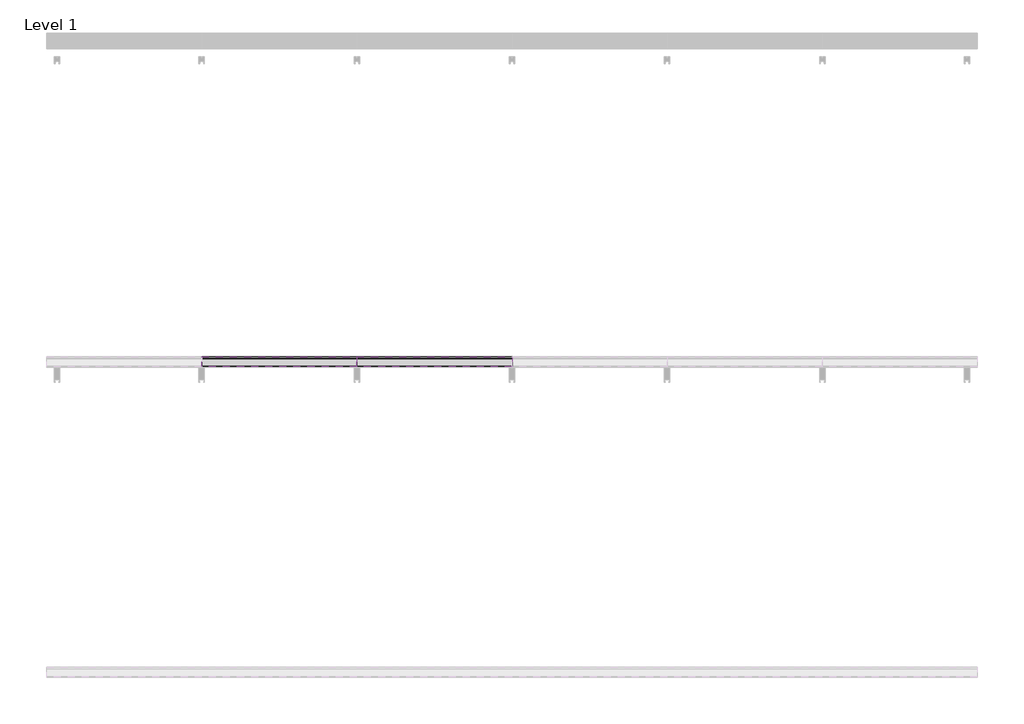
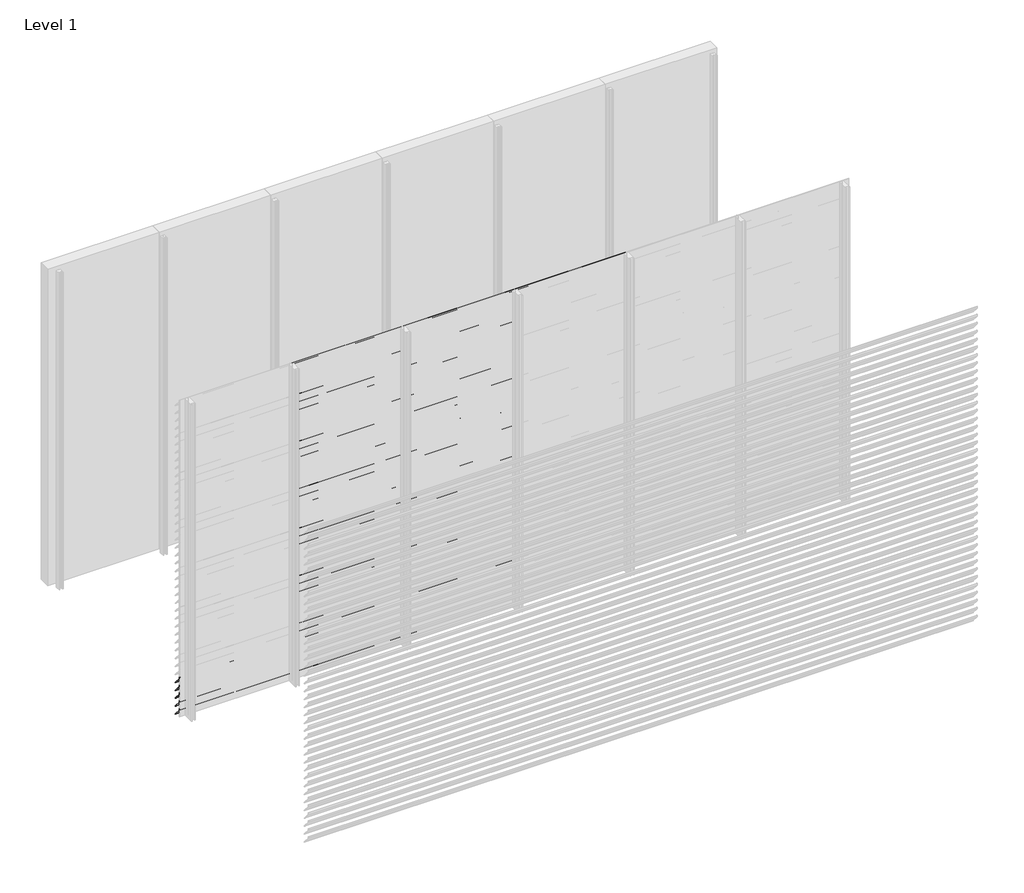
# One storey, part 24 of 35: 86 proxies.
"""IFC4 building model written with IfcOpenShell, lengths in millimetres."""

from ifc_helpers import new_model, si_unit, frame, origin, place, context, project, spatial, polyline, outline, extrude, element, save

model = new_model("IFC4")

# Units and contexts
model_context = context("Model", 3, world=origin())
ifc_project = project(units=[si_unit("LENGTHUNIT", "METRE", prefix="MILLI")], contexts=[model_context])

# Site, building, storey
site = spatial("IfcSite", under=ifc_project)
building = spatial("IfcBuilding", under=site)
storey = spatial("IfcBuildingStorey", under=building, Name="Level 1", Elevation=0.0)

# Proxies
placement = place(None, origin())
element("IfcBuildingElementProxy", 1, Name="Wall Sweeps", at=placement, inside=storey, context=model_context, shape_type="SweptSolid", body=[
    extrude(outline(polyline([(-17996.5, 375.0), (-17996.5, 360.5463701), (-17934.5, 288.9330051), (-17934.5, 285.4), (-17936.0, 285.4), (-17936.0, 288.3738975), (-17998.0, 359.9872626), (-17998.0, 375.0), (-17996.5, 375.0)])), frame((0.0, 0.0, 0.0), z_axis=(1.0, 0.0, 0.0), x_axis=(0.0, 1.0, 0.0)), (0.0, 0.0, 1.0), 1000.0),
])
element("IfcBuildingElementProxy", 2, Name="Wall Sweeps", at=placement, inside=storey, context=model_context, shape_type="SweptSolid", body=[
    extrude(outline(polyline([(-17996.5, 300.0), (-17996.5, 285.5463701), (-17934.5, 213.9330051), (-17934.5, 210.4), (-17936.0, 210.4), (-17936.0, 213.3738975), (-17998.0, 284.9872626), (-17998.0, 300.0), (-17996.5, 300.0)])), frame((0.0, 0.0, 0.0), z_axis=(1.0, 0.0, 0.0), x_axis=(0.0, 1.0, 0.0)), (0.0, 0.0, 1.0), 1000.0),
])
element("IfcBuildingElementProxy", 3, Name="Wall Sweeps", at=placement, inside=storey, context=model_context, shape_type="SweptSolid", body=[
    extrude(outline(polyline([(-17996.5, 225.0), (-17996.5, 210.5463701), (-17934.5, 138.9330051), (-17934.5, 135.4), (-17936.0, 135.4), (-17936.0, 138.3738975), (-17998.0, 209.9872626), (-17998.0, 225.0), (-17996.5, 225.0)])), frame((0.0, 0.0, 0.0), z_axis=(1.0, 0.0, 0.0), x_axis=(0.0, 1.0, 0.0)), (0.0, 0.0, 1.0), 1000.0),
])
element("IfcBuildingElementProxy", 4, Name="Wall Sweeps", at=placement, inside=storey, context=model_context, shape_type="SweptSolid", body=[
    extrude(outline(polyline([(-17996.5, 150.0), (-17996.5, 135.5463701), (-17934.5, 63.9330051), (-17934.5, 60.4), (-17936.0, 60.4), (-17936.0, 63.3738975), (-17998.0, 134.9872626), (-17998.0, 150.0), (-17996.5, 150.0)])), frame((0.0, 0.0, 0.0), z_axis=(1.0, 0.0, 0.0), x_axis=(0.0, 1.0, 0.0)), (0.0, 0.0, 1.0), 1000.0),
])
element("IfcBuildingElementProxy", 5, Name="Wall Sweeps", at=placement, inside=storey, context=model_context, shape_type="SweptSolid", body=[
    extrude(outline(polyline([(-17996.5, 75.0), (-17996.5, 60.5463701), (-17934.5, -11.0669949), (-17934.5, -14.6), (-17936.0, -14.6), (-17936.0, -11.6261025), (-17998.0, 59.9872626), (-17998.0, 75.0), (-17996.5, 75.0)])), frame((0.0, 0.0, 0.0), z_axis=(1.0, 0.0, 0.0), x_axis=(0.0, 1.0, 0.0)), (0.0, 0.0, 1.0), 1000.0),
])
element("IfcBuildingElementProxy", 6, Name="Wall Sweeps", at=placement, inside=storey, context=model_context, shape_type="SweptSolid", body=[
    extrude(outline(polyline([(-17996.5, 3000.0), (-17996.5, 2985.5463701), (-17934.5, 2913.9330051), (-17934.5, 2910.4), (-17936.0, 2910.4), (-17936.0, 2913.3738975), (-17998.0, 2984.9872626), (-17998.0, 3000.0), (-17996.5, 3000.0)])), frame((1000.0, 0.0, 0.0), z_axis=(1.0, 0.0, 0.0), x_axis=(0.0, 1.0, 0.0)), (0.0, 0.0, 1.0), 1000.0),
])
element("IfcBuildingElementProxy", 7, Name="Wall Sweeps", at=placement, inside=storey, context=model_context, shape_type="SweptSolid", body=[
    extrude(outline(polyline([(-17996.5, 2925.0), (-17996.5, 2910.5463701), (-17934.5, 2838.9330051), (-17934.5, 2835.4), (-17936.0, 2835.4), (-17936.0, 2838.3738975), (-17998.0, 2909.9872626), (-17998.0, 2925.0), (-17996.5, 2925.0)])), frame((1000.0, 0.0, 0.0), z_axis=(1.0, 0.0, 0.0), x_axis=(0.0, 1.0, 0.0)), (0.0, 0.0, 1.0), 1000.0),
])
element("IfcBuildingElementProxy", 8, Name="Wall Sweeps", at=placement, inside=storey, context=model_context, shape_type="SweptSolid", body=[
    extrude(outline(polyline([(-17996.5, 2850.0), (-17996.5, 2835.5463701), (-17934.5, 2763.9330051), (-17934.5, 2760.4), (-17936.0, 2760.4), (-17936.0, 2763.3738975), (-17998.0, 2834.9872626), (-17998.0, 2850.0), (-17996.5, 2850.0)])), frame((1000.0, 0.0, 0.0), z_axis=(1.0, 0.0, 0.0), x_axis=(0.0, 1.0, 0.0)), (0.0, 0.0, 1.0), 1000.0),
])
element("IfcBuildingElementProxy", 9, Name="Wall Sweeps", at=placement, inside=storey, context=model_context, shape_type="SweptSolid", body=[
    extrude(outline(polyline([(-17996.5, 2775.0), (-17996.5, 2760.5463701), (-17934.5, 2688.9330051), (-17934.5, 2685.4), (-17936.0, 2685.4), (-17936.0, 2688.3738975), (-17998.0, 2759.9872626), (-17998.0, 2775.0), (-17996.5, 2775.0)])), frame((1000.0, 0.0, 0.0), z_axis=(1.0, 0.0, 0.0), x_axis=(0.0, 1.0, 0.0)), (0.0, 0.0, 1.0), 1000.0),
])
element("IfcBuildingElementProxy", 10, Name="Wall Sweeps", at=placement, inside=storey, context=model_context, shape_type="SweptSolid", body=[
    extrude(outline(polyline([(-17996.5, 2700.0), (-17996.5, 2685.5463701), (-17934.5, 2613.9330051), (-17934.5, 2610.4), (-17936.0, 2610.4), (-17936.0, 2613.3738975), (-17998.0, 2684.9872626), (-17998.0, 2700.0), (-17996.5, 2700.0)])), frame((1000.0, 0.0, 0.0), z_axis=(1.0, 0.0, 0.0), x_axis=(0.0, 1.0, 0.0)), (0.0, 0.0, 1.0), 1000.0),
])
element("IfcBuildingElementProxy", 11, Name="Wall Sweeps", at=placement, inside=storey, context=model_context, shape_type="SweptSolid", body=[
    extrude(outline(polyline([(-17996.5, 2625.0), (-17996.5, 2610.5463701), (-17934.5, 2538.9330051), (-17934.5, 2535.4), (-17936.0, 2535.4), (-17936.0, 2538.3738975), (-17998.0, 2609.9872626), (-17998.0, 2625.0), (-17996.5, 2625.0)])), frame((1000.0, 0.0, 0.0), z_axis=(1.0, 0.0, 0.0), x_axis=(0.0, 1.0, 0.0)), (0.0, 0.0, 1.0), 1000.0),
])
element("IfcBuildingElementProxy", 12, Name="Wall Sweeps", at=placement, inside=storey, context=model_context, shape_type="SweptSolid", body=[
    extrude(outline(polyline([(-17996.5, 2550.0), (-17996.5, 2535.5463701), (-17934.5, 2463.9330051), (-17934.5, 2460.4), (-17936.0, 2460.4), (-17936.0, 2463.3738975), (-17998.0, 2534.9872626), (-17998.0, 2550.0), (-17996.5, 2550.0)])), frame((1000.0, 0.0, 0.0), z_axis=(1.0, 0.0, 0.0), x_axis=(0.0, 1.0, 0.0)), (0.0, 0.0, 1.0), 1000.0),
])
element("IfcBuildingElementProxy", 13, Name="Wall Sweeps", at=placement, inside=storey, context=model_context, shape_type="SweptSolid", body=[
    extrude(outline(polyline([(-17996.5, 2475.0), (-17996.5, 2460.5463701), (-17934.5, 2388.9330051), (-17934.5, 2385.4), (-17936.0, 2385.4), (-17936.0, 2388.3738975), (-17998.0, 2459.9872626), (-17998.0, 2475.0), (-17996.5, 2475.0)])), frame((1000.0, 0.0, 0.0), z_axis=(1.0, 0.0, 0.0), x_axis=(0.0, 1.0, 0.0)), (0.0, 0.0, 1.0), 1000.0),
])
element("IfcBuildingElementProxy", 14, Name="Wall Sweeps", at=placement, inside=storey, context=model_context, shape_type="SweptSolid", body=[
    extrude(outline(polyline([(-17996.5, 2400.0), (-17996.5, 2385.5463701), (-17934.5, 2313.9330051), (-17934.5, 2310.4), (-17936.0, 2310.4), (-17936.0, 2313.3738975), (-17998.0, 2384.9872626), (-17998.0, 2400.0), (-17996.5, 2400.0)])), frame((1000.0, 0.0, 0.0), z_axis=(1.0, 0.0, 0.0), x_axis=(0.0, 1.0, 0.0)), (0.0, 0.0, 1.0), 1000.0),
])
element("IfcBuildingElementProxy", 15, Name="Wall Sweeps", at=placement, inside=storey, context=model_context, shape_type="SweptSolid", body=[
    extrude(outline(polyline([(-17996.5, 2325.0), (-17996.5, 2310.5463701), (-17934.5, 2238.9330051), (-17934.5, 2235.4), (-17936.0, 2235.4), (-17936.0, 2238.3738975), (-17998.0, 2309.9872626), (-17998.0, 2325.0), (-17996.5, 2325.0)])), frame((1000.0, 0.0, 0.0), z_axis=(1.0, 0.0, 0.0), x_axis=(0.0, 1.0, 0.0)), (0.0, 0.0, 1.0), 1000.0),
])
element("IfcBuildingElementProxy", 16, Name="Wall Sweeps", at=placement, inside=storey, context=model_context, shape_type="SweptSolid", body=[
    extrude(outline(polyline([(-17996.5, 2250.0), (-17996.5, 2235.5463701), (-17934.5, 2163.9330051), (-17934.5, 2160.4), (-17936.0, 2160.4), (-17936.0, 2163.3738975), (-17998.0, 2234.9872626), (-17998.0, 2250.0), (-17996.5, 2250.0)])), frame((1000.0, 0.0, 0.0), z_axis=(1.0, 0.0, 0.0), x_axis=(0.0, 1.0, 0.0)), (0.0, 0.0, 1.0), 1000.0),
])
element("IfcBuildingElementProxy", 17, Name="Wall Sweeps", at=placement, inside=storey, context=model_context, shape_type="SweptSolid", body=[
    extrude(outline(polyline([(-17996.5, 2175.0), (-17996.5, 2160.5463701), (-17934.5, 2088.9330051), (-17934.5, 2085.4), (-17936.0, 2085.4), (-17936.0, 2088.3738975), (-17998.0, 2159.9872626), (-17998.0, 2175.0), (-17996.5, 2175.0)])), frame((1000.0, 0.0, 0.0), z_axis=(1.0, 0.0, 0.0), x_axis=(0.0, 1.0, 0.0)), (0.0, 0.0, 1.0), 1000.0),
])
element("IfcBuildingElementProxy", 18, Name="Wall Sweeps", at=placement, inside=storey, context=model_context, shape_type="SweptSolid", body=[
    extrude(outline(polyline([(-17996.5, 2100.0), (-17996.5, 2085.5463701), (-17934.5, 2013.9330051), (-17934.5, 2010.4), (-17936.0, 2010.4), (-17936.0, 2013.3738975), (-17998.0, 2084.9872626), (-17998.0, 2100.0), (-17996.5, 2100.0)])), frame((1000.0, 0.0, 0.0), z_axis=(1.0, 0.0, 0.0), x_axis=(0.0, 1.0, 0.0)), (0.0, 0.0, 1.0), 1000.0),
])
element("IfcBuildingElementProxy", 19, Name="Wall Sweeps", at=placement, inside=storey, context=model_context, shape_type="SweptSolid", body=[
    extrude(outline(polyline([(-17996.5, 2025.0), (-17996.5, 2010.5463701), (-17934.5, 1938.9330051), (-17934.5, 1935.4), (-17936.0, 1935.4), (-17936.0, 1938.3738975), (-17998.0, 2009.9872626), (-17998.0, 2025.0), (-17996.5, 2025.0)])), frame((1000.0, 0.0, 0.0), z_axis=(1.0, 0.0, 0.0), x_axis=(0.0, 1.0, 0.0)), (0.0, 0.0, 1.0), 1000.0),
])
element("IfcBuildingElementProxy", 20, Name="Wall Sweeps", at=placement, inside=storey, context=model_context, shape_type="SweptSolid", body=[
    extrude(outline(polyline([(-17996.5, 1950.0), (-17996.5, 1935.5463701), (-17934.5, 1863.9330051), (-17934.5, 1860.4), (-17936.0, 1860.4), (-17936.0, 1863.3738975), (-17998.0, 1934.9872626), (-17998.0, 1950.0), (-17996.5, 1950.0)])), frame((1000.0, 0.0, 0.0), z_axis=(1.0, 0.0, 0.0), x_axis=(0.0, 1.0, 0.0)), (0.0, 0.0, 1.0), 1000.0),
])
element("IfcBuildingElementProxy", 21, Name="Wall Sweeps", at=placement, inside=storey, context=model_context, shape_type="SweptSolid", body=[
    extrude(outline(polyline([(-17996.5, 1875.0), (-17996.5, 1860.5463701), (-17934.5, 1788.9330051), (-17934.5, 1785.4), (-17936.0, 1785.4), (-17936.0, 1788.3738975), (-17998.0, 1859.9872626), (-17998.0, 1875.0), (-17996.5, 1875.0)])), frame((1000.0, 0.0, 0.0), z_axis=(1.0, 0.0, 0.0), x_axis=(0.0, 1.0, 0.0)), (0.0, 0.0, 1.0), 1000.0),
])
element("IfcBuildingElementProxy", 22, Name="Wall Sweeps", at=placement, inside=storey, context=model_context, shape_type="SweptSolid", body=[
    extrude(outline(polyline([(-17996.5, 1800.0), (-17996.5, 1785.5463701), (-17934.5, 1713.9330051), (-17934.5, 1710.4), (-17936.0, 1710.4), (-17936.0, 1713.3738975), (-17998.0, 1784.9872626), (-17998.0, 1800.0), (-17996.5, 1800.0)])), frame((1000.0, 0.0, 0.0), z_axis=(1.0, 0.0, 0.0), x_axis=(0.0, 1.0, 0.0)), (0.0, 0.0, 1.0), 1000.0),
])
element("IfcBuildingElementProxy", 23, Name="Wall Sweeps", at=placement, inside=storey, context=model_context, shape_type="SweptSolid", body=[
    extrude(outline(polyline([(-17996.5, 1725.0), (-17996.5, 1710.5463701), (-17934.5, 1638.9330051), (-17934.5, 1635.4), (-17936.0, 1635.4), (-17936.0, 1638.3738975), (-17998.0, 1709.9872626), (-17998.0, 1725.0), (-17996.5, 1725.0)])), frame((1000.0, 0.0, 0.0), z_axis=(1.0, 0.0, 0.0), x_axis=(0.0, 1.0, 0.0)), (0.0, 0.0, 1.0), 1000.0),
])
element("IfcBuildingElementProxy", 24, Name="Wall Sweeps", at=placement, inside=storey, context=model_context, shape_type="SweptSolid", body=[
    extrude(outline(polyline([(-17996.5, 1650.0), (-17996.5, 1635.5463701), (-17934.5, 1563.9330051), (-17934.5, 1560.4), (-17936.0, 1560.4), (-17936.0, 1563.3738975), (-17998.0, 1634.9872626), (-17998.0, 1650.0), (-17996.5, 1650.0)])), frame((1000.0, 0.0, 0.0), z_axis=(1.0, 0.0, 0.0), x_axis=(0.0, 1.0, 0.0)), (0.0, 0.0, 1.0), 1000.0),
])
element("IfcBuildingElementProxy", 25, Name="Wall Sweeps", at=placement, inside=storey, context=model_context, shape_type="SweptSolid", body=[
    extrude(outline(polyline([(-17996.5, 1575.0), (-17996.5, 1560.5463701), (-17934.5, 1488.9330051), (-17934.5, 1485.4), (-17936.0, 1485.4), (-17936.0, 1488.3738975), (-17998.0, 1559.9872626), (-17998.0, 1575.0), (-17996.5, 1575.0)])), frame((1000.0, 0.0, 0.0), z_axis=(1.0, 0.0, 0.0), x_axis=(0.0, 1.0, 0.0)), (0.0, 0.0, 1.0), 1000.0),
])
element("IfcBuildingElementProxy", 26, Name="Wall Sweeps", at=placement, inside=storey, context=model_context, shape_type="SweptSolid", body=[
    extrude(outline(polyline([(-17996.5, 1500.0), (-17996.5, 1485.5463701), (-17934.5, 1413.9330051), (-17934.5, 1410.4), (-17936.0, 1410.4), (-17936.0, 1413.3738975), (-17998.0, 1484.9872626), (-17998.0, 1500.0), (-17996.5, 1500.0)])), frame((1000.0, 0.0, 0.0), z_axis=(1.0, 0.0, 0.0), x_axis=(0.0, 1.0, 0.0)), (0.0, 0.0, 1.0), 1000.0),
])
element("IfcBuildingElementProxy", 27, Name="Wall Sweeps", at=placement, inside=storey, context=model_context, shape_type="SweptSolid", body=[
    extrude(outline(polyline([(-17996.5, 1425.0), (-17996.5, 1410.5463701), (-17934.5, 1338.9330051), (-17934.5, 1335.4), (-17936.0, 1335.4), (-17936.0, 1338.3738975), (-17998.0, 1409.9872626), (-17998.0, 1425.0), (-17996.5, 1425.0)])), frame((1000.0, 0.0, 0.0), z_axis=(1.0, 0.0, 0.0), x_axis=(0.0, 1.0, 0.0)), (0.0, 0.0, 1.0), 1000.0),
])
element("IfcBuildingElementProxy", 28, Name="Wall Sweeps", at=placement, inside=storey, context=model_context, shape_type="SweptSolid", body=[
    extrude(outline(polyline([(-17996.5, 1350.0), (-17996.5, 1335.5463701), (-17934.5, 1263.9330051), (-17934.5, 1260.4), (-17936.0, 1260.4), (-17936.0, 1263.3738975), (-17998.0, 1334.9872626), (-17998.0, 1350.0), (-17996.5, 1350.0)])), frame((1000.0, 0.0, 0.0), z_axis=(1.0, 0.0, 0.0), x_axis=(0.0, 1.0, 0.0)), (0.0, 0.0, 1.0), 1000.0),
])
element("IfcBuildingElementProxy", 29, Name="Wall Sweeps", at=placement, inside=storey, context=model_context, shape_type="SweptSolid", body=[
    extrude(outline(polyline([(-17996.5, 1275.0), (-17996.5, 1260.5463701), (-17934.5, 1188.9330051), (-17934.5, 1185.4), (-17936.0, 1185.4), (-17936.0, 1188.3738975), (-17998.0, 1259.9872626), (-17998.0, 1275.0), (-17996.5, 1275.0)])), frame((1000.0, 0.0, 0.0), z_axis=(1.0, 0.0, 0.0), x_axis=(0.0, 1.0, 0.0)), (0.0, 0.0, 1.0), 1000.0),
])
element("IfcBuildingElementProxy", 30, Name="Wall Sweeps", at=placement, inside=storey, context=model_context, shape_type="SweptSolid", body=[
    extrude(outline(polyline([(-17996.5, 1200.0), (-17996.5, 1185.5463701), (-17934.5, 1113.9330051), (-17934.5, 1110.4), (-17936.0, 1110.4), (-17936.0, 1113.3738975), (-17998.0, 1184.9872626), (-17998.0, 1200.0), (-17996.5, 1200.0)])), frame((1000.0, 0.0, 0.0), z_axis=(1.0, 0.0, 0.0), x_axis=(0.0, 1.0, 0.0)), (0.0, 0.0, 1.0), 1000.0),
])
element("IfcBuildingElementProxy", 31, Name="Wall Sweeps", at=placement, inside=storey, context=model_context, shape_type="SweptSolid", body=[
    extrude(outline(polyline([(-17996.5, 1125.0), (-17996.5, 1110.5463701), (-17934.5, 1038.9330051), (-17934.5, 1035.4), (-17936.0, 1035.4), (-17936.0, 1038.3738975), (-17998.0, 1109.9872626), (-17998.0, 1125.0), (-17996.5, 1125.0)])), frame((1000.0, 0.0, 0.0), z_axis=(1.0, 0.0, 0.0), x_axis=(0.0, 1.0, 0.0)), (0.0, 0.0, 1.0), 1000.0),
])
element("IfcBuildingElementProxy", 32, Name="Wall Sweeps", at=placement, inside=storey, context=model_context, shape_type="SweptSolid", body=[
    extrude(outline(polyline([(-17996.5, 1050.0), (-17996.5, 1035.5463701), (-17934.5, 963.9330051), (-17934.5, 960.4), (-17936.0, 960.4), (-17936.0, 963.3738975), (-17998.0, 1034.9872626), (-17998.0, 1050.0), (-17996.5, 1050.0)])), frame((1000.0, 0.0, 0.0), z_axis=(1.0, 0.0, 0.0), x_axis=(0.0, 1.0, 0.0)), (0.0, 0.0, 1.0), 1000.0),
])
element("IfcBuildingElementProxy", 33, Name="Wall Sweeps", at=placement, inside=storey, context=model_context, shape_type="SweptSolid", body=[
    extrude(outline(polyline([(-17996.5, 975.0), (-17996.5, 960.5463701), (-17934.5, 888.9330051), (-17934.5, 885.4), (-17936.0, 885.4), (-17936.0, 888.3738975), (-17998.0, 959.9872626), (-17998.0, 975.0), (-17996.5, 975.0)])), frame((1000.0, 0.0, 0.0), z_axis=(1.0, 0.0, 0.0), x_axis=(0.0, 1.0, 0.0)), (0.0, 0.0, 1.0), 1000.0),
])
element("IfcBuildingElementProxy", 34, Name="Wall Sweeps", at=placement, inside=storey, context=model_context, shape_type="SweptSolid", body=[
    extrude(outline(polyline([(-17996.5, 900.0), (-17996.5, 885.5463701), (-17934.5, 813.9330051), (-17934.5, 810.4), (-17936.0, 810.4), (-17936.0, 813.3738975), (-17998.0, 884.9872626), (-17998.0, 900.0), (-17996.5, 900.0)])), frame((1000.0, 0.0, 0.0), z_axis=(1.0, 0.0, 0.0), x_axis=(0.0, 1.0, 0.0)), (0.0, 0.0, 1.0), 1000.0),
])
element("IfcBuildingElementProxy", 35, Name="Wall Sweeps", at=placement, inside=storey, context=model_context, shape_type="SweptSolid", body=[
    extrude(outline(polyline([(-17996.5, 825.0), (-17996.5, 810.5463701), (-17934.5, 738.9330051), (-17934.5, 735.4), (-17936.0, 735.4), (-17936.0, 738.3738975), (-17998.0, 809.9872626), (-17998.0, 825.0), (-17996.5, 825.0)])), frame((1000.0, 0.0, 0.0), z_axis=(1.0, 0.0, 0.0), x_axis=(0.0, 1.0, 0.0)), (0.0, 0.0, 1.0), 1000.0),
])
element("IfcBuildingElementProxy", 36, Name="Wall Sweeps", at=placement, inside=storey, context=model_context, shape_type="SweptSolid", body=[
    extrude(outline(polyline([(-17996.5, 750.0), (-17996.5, 735.5463701), (-17934.5, 663.9330051), (-17934.5, 660.4), (-17936.0, 660.4), (-17936.0, 663.3738975), (-17998.0, 734.9872626), (-17998.0, 750.0), (-17996.5, 750.0)])), frame((1000.0, 0.0, 0.0), z_axis=(1.0, 0.0, 0.0), x_axis=(0.0, 1.0, 0.0)), (0.0, 0.0, 1.0), 1000.0),
])
element("IfcBuildingElementProxy", 37, Name="Wall Sweeps", at=placement, inside=storey, context=model_context, shape_type="SweptSolid", body=[
    extrude(outline(polyline([(-17996.5, 675.0), (-17996.5, 660.5463701), (-17934.5, 588.9330051), (-17934.5, 585.4), (-17936.0, 585.4), (-17936.0, 588.3738975), (-17998.0, 659.9872626), (-17998.0, 675.0), (-17996.5, 675.0)])), frame((1000.0, 0.0, 0.0), z_axis=(1.0, 0.0, 0.0), x_axis=(0.0, 1.0, 0.0)), (0.0, 0.0, 1.0), 1000.0),
])
element("IfcBuildingElementProxy", 38, Name="Wall Sweeps", at=placement, inside=storey, context=model_context, shape_type="SweptSolid", body=[
    extrude(outline(polyline([(-17996.5, 600.0), (-17996.5, 585.5463701), (-17934.5, 513.9330051), (-17934.5, 510.4), (-17936.0, 510.4), (-17936.0, 513.3738975), (-17998.0, 584.9872626), (-17998.0, 600.0), (-17996.5, 600.0)])), frame((1000.0, 0.0, 0.0), z_axis=(1.0, 0.0, 0.0), x_axis=(0.0, 1.0, 0.0)), (0.0, 0.0, 1.0), 1000.0),
])
element("IfcBuildingElementProxy", 39, Name="Wall Sweeps", at=placement, inside=storey, context=model_context, shape_type="SweptSolid", body=[
    extrude(outline(polyline([(-17996.5, 525.0), (-17996.5, 510.5463701), (-17934.5, 438.9330051), (-17934.5, 435.4), (-17936.0, 435.4), (-17936.0, 438.3738975), (-17998.0, 509.9872626), (-17998.0, 525.0), (-17996.5, 525.0)])), frame((1000.0, 0.0, 0.0), z_axis=(1.0, 0.0, 0.0), x_axis=(0.0, 1.0, 0.0)), (0.0, 0.0, 1.0), 1000.0),
])
element("IfcBuildingElementProxy", 40, Name="Wall Sweeps", at=placement, inside=storey, context=model_context, shape_type="SweptSolid", body=[
    extrude(outline(polyline([(-17996.5, 450.0), (-17996.5, 435.5463701), (-17934.5, 363.9330051), (-17934.5, 360.4), (-17936.0, 360.4), (-17936.0, 363.3738975), (-17998.0, 434.9872626), (-17998.0, 450.0), (-17996.5, 450.0)])), frame((1000.0, 0.0, 0.0), z_axis=(1.0, 0.0, 0.0), x_axis=(0.0, 1.0, 0.0)), (0.0, 0.0, 1.0), 1000.0),
])
element("IfcBuildingElementProxy", 41, Name="Wall Sweeps", at=placement, inside=storey, context=model_context, shape_type="SweptSolid", body=[
    extrude(outline(polyline([(-17996.5, 375.0), (-17996.5, 360.5463701), (-17934.5, 288.9330051), (-17934.5, 285.4), (-17936.0, 285.4), (-17936.0, 288.3738975), (-17998.0, 359.9872626), (-17998.0, 375.0), (-17996.5, 375.0)])), frame((1000.0, 0.0, 0.0), z_axis=(1.0, 0.0, 0.0), x_axis=(0.0, 1.0, 0.0)), (0.0, 0.0, 1.0), 1000.0),
])
element("IfcBuildingElementProxy", 42, Name="Wall Sweeps", at=placement, inside=storey, context=model_context, shape_type="SweptSolid", body=[
    extrude(outline(polyline([(-17996.5, 300.0), (-17996.5, 285.5463701), (-17934.5, 213.9330051), (-17934.5, 210.4), (-17936.0, 210.4), (-17936.0, 213.3738975), (-17998.0, 284.9872626), (-17998.0, 300.0), (-17996.5, 300.0)])), frame((1000.0, 0.0, 0.0), z_axis=(1.0, 0.0, 0.0), x_axis=(0.0, 1.0, 0.0)), (0.0, 0.0, 1.0), 1000.0),
])
element("IfcBuildingElementProxy", 43, Name="Wall Sweeps", at=placement, inside=storey, context=model_context, shape_type="SweptSolid", body=[
    extrude(outline(polyline([(-17996.5, 225.0), (-17996.5, 210.5463701), (-17934.5, 138.9330051), (-17934.5, 135.4), (-17936.0, 135.4), (-17936.0, 138.3738975), (-17998.0, 209.9872626), (-17998.0, 225.0), (-17996.5, 225.0)])), frame((1000.0, 0.0, 0.0), z_axis=(1.0, 0.0, 0.0), x_axis=(0.0, 1.0, 0.0)), (0.0, 0.0, 1.0), 1000.0),
])
element("IfcBuildingElementProxy", 44, Name="Wall Sweeps", at=placement, inside=storey, context=model_context, shape_type="SweptSolid", body=[
    extrude(outline(polyline([(-17996.5, 150.0), (-17996.5, 135.5463701), (-17934.5, 63.9330051), (-17934.5, 60.4), (-17936.0, 60.4), (-17936.0, 63.3738975), (-17998.0, 134.9872626), (-17998.0, 150.0), (-17996.5, 150.0)])), frame((1000.0, 0.0, 0.0), z_axis=(1.0, 0.0, 0.0), x_axis=(0.0, 1.0, 0.0)), (0.0, 0.0, 1.0), 1000.0),
])
element("IfcBuildingElementProxy", 45, Name="Wall Sweeps", at=placement, inside=storey, context=model_context, shape_type="SweptSolid", body=[
    extrude(outline(polyline([(-17996.5, 75.0), (-17996.5, 60.5463701), (-17934.5, -11.0669949), (-17934.5, -14.6), (-17936.0, -14.6), (-17936.0, -11.6261025), (-17998.0, 59.9872626), (-17998.0, 75.0), (-17996.5, 75.0)])), frame((1000.0, 0.0, 0.0), z_axis=(1.0, 0.0, 0.0), x_axis=(0.0, 1.0, 0.0)), (0.0, 0.0, 1.0), 1000.0),
])
element("IfcBuildingElementProxy", 46, Name="Wall Sweeps", at=placement, inside=storey, context=model_context, shape_type="SweptSolid", body=[
    extrude(outline(polyline([(-17996.5, 3000.0), (-17996.5, 2985.5463701), (-17934.5, 2913.9330051), (-17934.5, 2910.4), (-17936.0, 2910.4), (-17936.0, 2913.3738975), (-17998.0, 2984.9872626), (-17998.0, 3000.0), (-17996.5, 3000.0)])), frame((2000.0, 0.0, 0.0), z_axis=(1.0, 0.0, 0.0), x_axis=(0.0, 1.0, 0.0)), (0.0, 0.0, 1.0), 1000.0),
])
element("IfcBuildingElementProxy", 47, Name="Wall Sweeps", at=placement, inside=storey, context=model_context, shape_type="SweptSolid", body=[
    extrude(outline(polyline([(-17996.5, 2925.0), (-17996.5, 2910.5463701), (-17934.5, 2838.9330051), (-17934.5, 2835.4), (-17936.0, 2835.4), (-17936.0, 2838.3738975), (-17998.0, 2909.9872626), (-17998.0, 2925.0), (-17996.5, 2925.0)])), frame((2000.0, 0.0, 0.0), z_axis=(1.0, 0.0, 0.0), x_axis=(0.0, 1.0, 0.0)), (0.0, 0.0, 1.0), 1000.0),
])
element("IfcBuildingElementProxy", 48, Name="Wall Sweeps", at=placement, inside=storey, context=model_context, shape_type="SweptSolid", body=[
    extrude(outline(polyline([(-17996.5, 2850.0), (-17996.5, 2835.5463701), (-17934.5, 2763.9330051), (-17934.5, 2760.4), (-17936.0, 2760.4), (-17936.0, 2763.3738975), (-17998.0, 2834.9872626), (-17998.0, 2850.0), (-17996.5, 2850.0)])), frame((2000.0, 0.0, 0.0), z_axis=(1.0, 0.0, 0.0), x_axis=(0.0, 1.0, 0.0)), (0.0, 0.0, 1.0), 1000.0),
])
element("IfcBuildingElementProxy", 49, Name="Wall Sweeps", at=placement, inside=storey, context=model_context, shape_type="SweptSolid", body=[
    extrude(outline(polyline([(-17996.5, 2775.0), (-17996.5, 2760.5463701), (-17934.5, 2688.9330051), (-17934.5, 2685.4), (-17936.0, 2685.4), (-17936.0, 2688.3738975), (-17998.0, 2759.9872626), (-17998.0, 2775.0), (-17996.5, 2775.0)])), frame((2000.0, 0.0, 0.0), z_axis=(1.0, 0.0, 0.0), x_axis=(0.0, 1.0, 0.0)), (0.0, 0.0, 1.0), 1000.0),
])
element("IfcBuildingElementProxy", 50, Name="Wall Sweeps", at=placement, inside=storey, context=model_context, shape_type="SweptSolid", body=[
    extrude(outline(polyline([(-17996.5, 2700.0), (-17996.5, 2685.5463701), (-17934.5, 2613.9330051), (-17934.5, 2610.4), (-17936.0, 2610.4), (-17936.0, 2613.3738975), (-17998.0, 2684.9872626), (-17998.0, 2700.0), (-17996.5, 2700.0)])), frame((2000.0, 0.0, 0.0), z_axis=(1.0, 0.0, 0.0), x_axis=(0.0, 1.0, 0.0)), (0.0, 0.0, 1.0), 1000.0),
])
element("IfcBuildingElementProxy", 51, Name="Wall Sweeps", at=placement, inside=storey, context=model_context, shape_type="SweptSolid", body=[
    extrude(outline(polyline([(-17996.5, 2625.0), (-17996.5, 2610.5463701), (-17934.5, 2538.9330051), (-17934.5, 2535.4), (-17936.0, 2535.4), (-17936.0, 2538.3738975), (-17998.0, 2609.9872626), (-17998.0, 2625.0), (-17996.5, 2625.0)])), frame((2000.0, 0.0, 0.0), z_axis=(1.0, 0.0, 0.0), x_axis=(0.0, 1.0, 0.0)), (0.0, 0.0, 1.0), 1000.0),
])
element("IfcBuildingElementProxy", 52, Name="Wall Sweeps", at=placement, inside=storey, context=model_context, shape_type="SweptSolid", body=[
    extrude(outline(polyline([(-17996.5, 2550.0), (-17996.5, 2535.5463701), (-17934.5, 2463.9330051), (-17934.5, 2460.4), (-17936.0, 2460.4), (-17936.0, 2463.3738975), (-17998.0, 2534.9872626), (-17998.0, 2550.0), (-17996.5, 2550.0)])), frame((2000.0, 0.0, 0.0), z_axis=(1.0, 0.0, 0.0), x_axis=(0.0, 1.0, 0.0)), (0.0, 0.0, 1.0), 1000.0),
])
element("IfcBuildingElementProxy", 53, Name="Wall Sweeps", at=placement, inside=storey, context=model_context, shape_type="SweptSolid", body=[
    extrude(outline(polyline([(-17996.5, 2475.0), (-17996.5, 2460.5463701), (-17934.5, 2388.9330051), (-17934.5, 2385.4), (-17936.0, 2385.4), (-17936.0, 2388.3738975), (-17998.0, 2459.9872626), (-17998.0, 2475.0), (-17996.5, 2475.0)])), frame((2000.0, 0.0, 0.0), z_axis=(1.0, 0.0, 0.0), x_axis=(0.0, 1.0, 0.0)), (0.0, 0.0, 1.0), 1000.0),
])
element("IfcBuildingElementProxy", 54, Name="Wall Sweeps", at=placement, inside=storey, context=model_context, shape_type="SweptSolid", body=[
    extrude(outline(polyline([(-17996.5, 2400.0), (-17996.5, 2385.5463701), (-17934.5, 2313.9330051), (-17934.5, 2310.4), (-17936.0, 2310.4), (-17936.0, 2313.3738975), (-17998.0, 2384.9872626), (-17998.0, 2400.0), (-17996.5, 2400.0)])), frame((2000.0, 0.0, 0.0), z_axis=(1.0, 0.0, 0.0), x_axis=(0.0, 1.0, 0.0)), (0.0, 0.0, 1.0), 1000.0),
])
element("IfcBuildingElementProxy", 55, Name="Wall Sweeps", at=placement, inside=storey, context=model_context, shape_type="SweptSolid", body=[
    extrude(outline(polyline([(-17996.5, 2325.0), (-17996.5, 2310.5463701), (-17934.5, 2238.9330051), (-17934.5, 2235.4), (-17936.0, 2235.4), (-17936.0, 2238.3738975), (-17998.0, 2309.9872626), (-17998.0, 2325.0), (-17996.5, 2325.0)])), frame((2000.0, 0.0, 0.0), z_axis=(1.0, 0.0, 0.0), x_axis=(0.0, 1.0, 0.0)), (0.0, 0.0, 1.0), 1000.0),
])
element("IfcBuildingElementProxy", 56, Name="Wall Sweeps", at=placement, inside=storey, context=model_context, shape_type="SweptSolid", body=[
    extrude(outline(polyline([(-17996.5, 2250.0), (-17996.5, 2235.5463701), (-17934.5, 2163.9330051), (-17934.5, 2160.4), (-17936.0, 2160.4), (-17936.0, 2163.3738975), (-17998.0, 2234.9872626), (-17998.0, 2250.0), (-17996.5, 2250.0)])), frame((2000.0, 0.0, 0.0), z_axis=(1.0, 0.0, 0.0), x_axis=(0.0, 1.0, 0.0)), (0.0, 0.0, 1.0), 1000.0),
])
element("IfcBuildingElementProxy", 57, Name="Wall Sweeps", at=placement, inside=storey, context=model_context, shape_type="SweptSolid", body=[
    extrude(outline(polyline([(-17996.5, 2175.0), (-17996.5, 2160.5463701), (-17934.5, 2088.9330051), (-17934.5, 2085.4), (-17936.0, 2085.4), (-17936.0, 2088.3738975), (-17998.0, 2159.9872626), (-17998.0, 2175.0), (-17996.5, 2175.0)])), frame((2000.0, 0.0, 0.0), z_axis=(1.0, 0.0, 0.0), x_axis=(0.0, 1.0, 0.0)), (0.0, 0.0, 1.0), 1000.0),
])
element("IfcBuildingElementProxy", 58, Name="Wall Sweeps", at=placement, inside=storey, context=model_context, shape_type="SweptSolid", body=[
    extrude(outline(polyline([(-17996.5, 2100.0), (-17996.5, 2085.5463701), (-17934.5, 2013.9330051), (-17934.5, 2010.4), (-17936.0, 2010.4), (-17936.0, 2013.3738975), (-17998.0, 2084.9872626), (-17998.0, 2100.0), (-17996.5, 2100.0)])), frame((2000.0, 0.0, 0.0), z_axis=(1.0, 0.0, 0.0), x_axis=(0.0, 1.0, 0.0)), (0.0, 0.0, 1.0), 1000.0),
])
element("IfcBuildingElementProxy", 59, Name="Wall Sweeps", at=placement, inside=storey, context=model_context, shape_type="SweptSolid", body=[
    extrude(outline(polyline([(-17996.5, 2025.0), (-17996.5, 2010.5463701), (-17934.5, 1938.9330051), (-17934.5, 1935.4), (-17936.0, 1935.4), (-17936.0, 1938.3738975), (-17998.0, 2009.9872626), (-17998.0, 2025.0), (-17996.5, 2025.0)])), frame((2000.0, 0.0, 0.0), z_axis=(1.0, 0.0, 0.0), x_axis=(0.0, 1.0, 0.0)), (0.0, 0.0, 1.0), 1000.0),
])
element("IfcBuildingElementProxy", 60, Name="Wall Sweeps", at=placement, inside=storey, context=model_context, shape_type="SweptSolid", body=[
    extrude(outline(polyline([(-17996.5, 1950.0), (-17996.5, 1935.5463701), (-17934.5, 1863.9330051), (-17934.5, 1860.4), (-17936.0, 1860.4), (-17936.0, 1863.3738975), (-17998.0, 1934.9872626), (-17998.0, 1950.0), (-17996.5, 1950.0)])), frame((2000.0, 0.0, 0.0), z_axis=(1.0, 0.0, 0.0), x_axis=(0.0, 1.0, 0.0)), (0.0, 0.0, 1.0), 1000.0),
])
element("IfcBuildingElementProxy", 61, Name="Wall Sweeps", at=placement, inside=storey, context=model_context, shape_type="SweptSolid", body=[
    extrude(outline(polyline([(-17996.5, 1875.0), (-17996.5, 1860.5463701), (-17934.5, 1788.9330051), (-17934.5, 1785.4), (-17936.0, 1785.4), (-17936.0, 1788.3738975), (-17998.0, 1859.9872626), (-17998.0, 1875.0), (-17996.5, 1875.0)])), frame((2000.0, 0.0, 0.0), z_axis=(1.0, 0.0, 0.0), x_axis=(0.0, 1.0, 0.0)), (0.0, 0.0, 1.0), 1000.0),
])
element("IfcBuildingElementProxy", 62, Name="Wall Sweeps", at=placement, inside=storey, context=model_context, shape_type="SweptSolid", body=[
    extrude(outline(polyline([(-17996.5, 1800.0), (-17996.5, 1785.5463701), (-17934.5, 1713.9330051), (-17934.5, 1710.4), (-17936.0, 1710.4), (-17936.0, 1713.3738975), (-17998.0, 1784.9872626), (-17998.0, 1800.0), (-17996.5, 1800.0)])), frame((2000.0, 0.0, 0.0), z_axis=(1.0, 0.0, 0.0), x_axis=(0.0, 1.0, 0.0)), (0.0, 0.0, 1.0), 1000.0),
])
element("IfcBuildingElementProxy", 63, Name="Wall Sweeps", at=placement, inside=storey, context=model_context, shape_type="SweptSolid", body=[
    extrude(outline(polyline([(-17996.5, 1725.0), (-17996.5, 1710.5463701), (-17934.5, 1638.9330051), (-17934.5, 1635.4), (-17936.0, 1635.4), (-17936.0, 1638.3738975), (-17998.0, 1709.9872626), (-17998.0, 1725.0), (-17996.5, 1725.0)])), frame((2000.0, 0.0, 0.0), z_axis=(1.0, 0.0, 0.0), x_axis=(0.0, 1.0, 0.0)), (0.0, 0.0, 1.0), 1000.0),
])
element("IfcBuildingElementProxy", 64, Name="Wall Sweeps", at=placement, inside=storey, context=model_context, shape_type="SweptSolid", body=[
    extrude(outline(polyline([(-17996.5, 1650.0), (-17996.5, 1635.5463701), (-17934.5, 1563.9330051), (-17934.5, 1560.4), (-17936.0, 1560.4), (-17936.0, 1563.3738975), (-17998.0, 1634.9872626), (-17998.0, 1650.0), (-17996.5, 1650.0)])), frame((2000.0, 0.0, 0.0), z_axis=(1.0, 0.0, 0.0), x_axis=(0.0, 1.0, 0.0)), (0.0, 0.0, 1.0), 1000.0),
])
element("IfcBuildingElementProxy", 65, Name="Wall Sweeps", at=placement, inside=storey, context=model_context, shape_type="SweptSolid", body=[
    extrude(outline(polyline([(-17996.5, 1575.0), (-17996.5, 1560.5463701), (-17934.5, 1488.9330051), (-17934.5, 1485.4), (-17936.0, 1485.4), (-17936.0, 1488.3738975), (-17998.0, 1559.9872626), (-17998.0, 1575.0), (-17996.5, 1575.0)])), frame((2000.0, 0.0, 0.0), z_axis=(1.0, 0.0, 0.0), x_axis=(0.0, 1.0, 0.0)), (0.0, 0.0, 1.0), 1000.0),
])
element("IfcBuildingElementProxy", 66, Name="Wall Sweeps", at=placement, inside=storey, context=model_context, shape_type="SweptSolid", body=[
    extrude(outline(polyline([(-17996.5, 1500.0), (-17996.5, 1485.5463701), (-17934.5, 1413.9330051), (-17934.5, 1410.4), (-17936.0, 1410.4), (-17936.0, 1413.3738975), (-17998.0, 1484.9872626), (-17998.0, 1500.0), (-17996.5, 1500.0)])), frame((2000.0, 0.0, 0.0), z_axis=(1.0, 0.0, 0.0), x_axis=(0.0, 1.0, 0.0)), (0.0, 0.0, 1.0), 1000.0),
])
element("IfcBuildingElementProxy", 67, Name="Wall Sweeps", at=placement, inside=storey, context=model_context, shape_type="SweptSolid", body=[
    extrude(outline(polyline([(-17996.5, 1425.0), (-17996.5, 1410.5463701), (-17934.5, 1338.9330051), (-17934.5, 1335.4), (-17936.0, 1335.4), (-17936.0, 1338.3738975), (-17998.0, 1409.9872626), (-17998.0, 1425.0), (-17996.5, 1425.0)])), frame((2000.0, 0.0, 0.0), z_axis=(1.0, 0.0, 0.0), x_axis=(0.0, 1.0, 0.0)), (0.0, 0.0, 1.0), 1000.0),
])
element("IfcBuildingElementProxy", 68, Name="Wall Sweeps", at=placement, inside=storey, context=model_context, shape_type="SweptSolid", body=[
    extrude(outline(polyline([(-17996.5, 1350.0), (-17996.5, 1335.5463701), (-17934.5, 1263.9330051), (-17934.5, 1260.4), (-17936.0, 1260.4), (-17936.0, 1263.3738975), (-17998.0, 1334.9872626), (-17998.0, 1350.0), (-17996.5, 1350.0)])), frame((2000.0, 0.0, 0.0), z_axis=(1.0, 0.0, 0.0), x_axis=(0.0, 1.0, 0.0)), (0.0, 0.0, 1.0), 1000.0),
])
element("IfcBuildingElementProxy", 69, Name="Wall Sweeps", at=placement, inside=storey, context=model_context, shape_type="SweptSolid", body=[
    extrude(outline(polyline([(-17996.5, 1275.0), (-17996.5, 1260.5463701), (-17934.5, 1188.9330051), (-17934.5, 1185.4), (-17936.0, 1185.4), (-17936.0, 1188.3738975), (-17998.0, 1259.9872626), (-17998.0, 1275.0), (-17996.5, 1275.0)])), frame((2000.0, 0.0, 0.0), z_axis=(1.0, 0.0, 0.0), x_axis=(0.0, 1.0, 0.0)), (0.0, 0.0, 1.0), 1000.0),
])
element("IfcBuildingElementProxy", 70, Name="Wall Sweeps", at=placement, inside=storey, context=model_context, shape_type="SweptSolid", body=[
    extrude(outline(polyline([(-17996.5, 1200.0), (-17996.5, 1185.5463701), (-17934.5, 1113.9330051), (-17934.5, 1110.4), (-17936.0, 1110.4), (-17936.0, 1113.3738975), (-17998.0, 1184.9872626), (-17998.0, 1200.0), (-17996.5, 1200.0)])), frame((2000.0, 0.0, 0.0), z_axis=(1.0, 0.0, 0.0), x_axis=(0.0, 1.0, 0.0)), (0.0, 0.0, 1.0), 1000.0),
])
element("IfcBuildingElementProxy", 71, Name="Wall Sweeps", at=placement, inside=storey, context=model_context, shape_type="SweptSolid", body=[
    extrude(outline(polyline([(-17996.5, 1125.0), (-17996.5, 1110.5463701), (-17934.5, 1038.9330051), (-17934.5, 1035.4), (-17936.0, 1035.4), (-17936.0, 1038.3738975), (-17998.0, 1109.9872626), (-17998.0, 1125.0), (-17996.5, 1125.0)])), frame((2000.0, 0.0, 0.0), z_axis=(1.0, 0.0, 0.0), x_axis=(0.0, 1.0, 0.0)), (0.0, 0.0, 1.0), 1000.0),
])
element("IfcBuildingElementProxy", 72, Name="Wall Sweeps", at=placement, inside=storey, context=model_context, shape_type="SweptSolid", body=[
    extrude(outline(polyline([(-17996.5, 1050.0), (-17996.5, 1035.5463701), (-17934.5, 963.9330051), (-17934.5, 960.4), (-17936.0, 960.4), (-17936.0, 963.3738975), (-17998.0, 1034.9872626), (-17998.0, 1050.0), (-17996.5, 1050.0)])), frame((2000.0, 0.0, 0.0), z_axis=(1.0, 0.0, 0.0), x_axis=(0.0, 1.0, 0.0)), (0.0, 0.0, 1.0), 1000.0),
])
element("IfcBuildingElementProxy", 73, Name="Wall Sweeps", at=placement, inside=storey, context=model_context, shape_type="SweptSolid", body=[
    extrude(outline(polyline([(-17996.5, 975.0), (-17996.5, 960.5463701), (-17934.5, 888.9330051), (-17934.5, 885.4), (-17936.0, 885.4), (-17936.0, 888.3738975), (-17998.0, 959.9872626), (-17998.0, 975.0), (-17996.5, 975.0)])), frame((2000.0, 0.0, 0.0), z_axis=(1.0, 0.0, 0.0), x_axis=(0.0, 1.0, 0.0)), (0.0, 0.0, 1.0), 1000.0),
])
element("IfcBuildingElementProxy", 74, Name="Wall Sweeps", at=placement, inside=storey, context=model_context, shape_type="SweptSolid", body=[
    extrude(outline(polyline([(-17996.5, 900.0), (-17996.5, 885.5463701), (-17934.5, 813.9330051), (-17934.5, 810.4), (-17936.0, 810.4), (-17936.0, 813.3738975), (-17998.0, 884.9872626), (-17998.0, 900.0), (-17996.5, 900.0)])), frame((2000.0, 0.0, 0.0), z_axis=(1.0, 0.0, 0.0), x_axis=(0.0, 1.0, 0.0)), (0.0, 0.0, 1.0), 1000.0),
])
element("IfcBuildingElementProxy", 75, Name="Wall Sweeps", at=placement, inside=storey, context=model_context, shape_type="SweptSolid", body=[
    extrude(outline(polyline([(-17996.5, 825.0), (-17996.5, 810.5463701), (-17934.5, 738.9330051), (-17934.5, 735.4), (-17936.0, 735.4), (-17936.0, 738.3738975), (-17998.0, 809.9872626), (-17998.0, 825.0), (-17996.5, 825.0)])), frame((2000.0, 0.0, 0.0), z_axis=(1.0, 0.0, 0.0), x_axis=(0.0, 1.0, 0.0)), (0.0, 0.0, 1.0), 1000.0),
])
element("IfcBuildingElementProxy", 76, Name="Wall Sweeps", at=placement, inside=storey, context=model_context, shape_type="SweptSolid", body=[
    extrude(outline(polyline([(-17996.5, 750.0), (-17996.5, 735.5463701), (-17934.5, 663.9330051), (-17934.5, 660.4), (-17936.0, 660.4), (-17936.0, 663.3738975), (-17998.0, 734.9872626), (-17998.0, 750.0), (-17996.5, 750.0)])), frame((2000.0, 0.0, 0.0), z_axis=(1.0, 0.0, 0.0), x_axis=(0.0, 1.0, 0.0)), (0.0, 0.0, 1.0), 1000.0),
])
element("IfcBuildingElementProxy", 77, Name="Wall Sweeps", at=placement, inside=storey, context=model_context, shape_type="SweptSolid", body=[
    extrude(outline(polyline([(-17996.5, 675.0), (-17996.5, 660.5463701), (-17934.5, 588.9330051), (-17934.5, 585.4), (-17936.0, 585.4), (-17936.0, 588.3738975), (-17998.0, 659.9872626), (-17998.0, 675.0), (-17996.5, 675.0)])), frame((2000.0, 0.0, 0.0), z_axis=(1.0, 0.0, 0.0), x_axis=(0.0, 1.0, 0.0)), (0.0, 0.0, 1.0), 1000.0),
])
element("IfcBuildingElementProxy", 78, Name="Wall Sweeps", at=placement, inside=storey, context=model_context, shape_type="SweptSolid", body=[
    extrude(outline(polyline([(-17996.5, 600.0), (-17996.5, 585.5463701), (-17934.5, 513.9330051), (-17934.5, 510.4), (-17936.0, 510.4), (-17936.0, 513.3738975), (-17998.0, 584.9872626), (-17998.0, 600.0), (-17996.5, 600.0)])), frame((2000.0, 0.0, 0.0), z_axis=(1.0, 0.0, 0.0), x_axis=(0.0, 1.0, 0.0)), (0.0, 0.0, 1.0), 1000.0),
])
element("IfcBuildingElementProxy", 79, Name="Wall Sweeps", at=placement, inside=storey, context=model_context, shape_type="SweptSolid", body=[
    extrude(outline(polyline([(-17996.5, 525.0), (-17996.5, 510.5463701), (-17934.5, 438.9330051), (-17934.5, 435.4), (-17936.0, 435.4), (-17936.0, 438.3738975), (-17998.0, 509.9872626), (-17998.0, 525.0), (-17996.5, 525.0)])), frame((2000.0, 0.0, 0.0), z_axis=(1.0, 0.0, 0.0), x_axis=(0.0, 1.0, 0.0)), (0.0, 0.0, 1.0), 1000.0),
])
element("IfcBuildingElementProxy", 80, Name="Wall Sweeps", at=placement, inside=storey, context=model_context, shape_type="SweptSolid", body=[
    extrude(outline(polyline([(-17996.5, 450.0), (-17996.5, 435.5463701), (-17934.5, 363.9330051), (-17934.5, 360.4), (-17936.0, 360.4), (-17936.0, 363.3738975), (-17998.0, 434.9872626), (-17998.0, 450.0), (-17996.5, 450.0)])), frame((2000.0, 0.0, 0.0), z_axis=(1.0, 0.0, 0.0), x_axis=(0.0, 1.0, 0.0)), (0.0, 0.0, 1.0), 1000.0),
])
element("IfcBuildingElementProxy", 81, Name="Wall Sweeps", at=placement, inside=storey, context=model_context, shape_type="SweptSolid", body=[
    extrude(outline(polyline([(-17996.5, 375.0), (-17996.5, 360.5463701), (-17934.5, 288.9330051), (-17934.5, 285.4), (-17936.0, 285.4), (-17936.0, 288.3738975), (-17998.0, 359.9872626), (-17998.0, 375.0), (-17996.5, 375.0)])), frame((2000.0, 0.0, 0.0), z_axis=(1.0, 0.0, 0.0), x_axis=(0.0, 1.0, 0.0)), (0.0, 0.0, 1.0), 1000.0),
])
element("IfcBuildingElementProxy", 82, Name="Wall Sweeps", at=placement, inside=storey, context=model_context, shape_type="SweptSolid", body=[
    extrude(outline(polyline([(-17996.5, 300.0), (-17996.5, 285.5463701), (-17934.5, 213.9330051), (-17934.5, 210.4), (-17936.0, 210.4), (-17936.0, 213.3738975), (-17998.0, 284.9872626), (-17998.0, 300.0), (-17996.5, 300.0)])), frame((2000.0, 0.0, 0.0), z_axis=(1.0, 0.0, 0.0), x_axis=(0.0, 1.0, 0.0)), (0.0, 0.0, 1.0), 1000.0),
])
element("IfcBuildingElementProxy", 83, Name="Wall Sweeps", at=placement, inside=storey, context=model_context, shape_type="SweptSolid", body=[
    extrude(outline(polyline([(-17996.5, 225.0), (-17996.5, 210.5463701), (-17934.5, 138.9330051), (-17934.5, 135.4), (-17936.0, 135.4), (-17936.0, 138.3738975), (-17998.0, 209.9872626), (-17998.0, 225.0), (-17996.5, 225.0)])), frame((2000.0, 0.0, 0.0), z_axis=(1.0, 0.0, 0.0), x_axis=(0.0, 1.0, 0.0)), (0.0, 0.0, 1.0), 1000.0),
])
element("IfcBuildingElementProxy", 84, Name="Wall Sweeps", at=placement, inside=storey, context=model_context, shape_type="SweptSolid", body=[
    extrude(outline(polyline([(-17996.5, 150.0), (-17996.5, 135.5463701), (-17934.5, 63.9330051), (-17934.5, 60.4), (-17936.0, 60.4), (-17936.0, 63.3738975), (-17998.0, 134.9872626), (-17998.0, 150.0), (-17996.5, 150.0)])), frame((2000.0, 0.0, 0.0), z_axis=(1.0, 0.0, 0.0), x_axis=(0.0, 1.0, 0.0)), (0.0, 0.0, 1.0), 1000.0),
])
element("IfcBuildingElementProxy", 85, Name="Wall Sweeps", at=placement, inside=storey, context=model_context, shape_type="SweptSolid", body=[
    extrude(outline(polyline([(-17996.5, 75.0), (-17996.5, 60.5463701), (-17934.5, -11.0669949), (-17934.5, -14.6), (-17936.0, -14.6), (-17936.0, -11.6261025), (-17998.0, 59.9872626), (-17998.0, 75.0), (-17996.5, 75.0)])), frame((2000.0, 0.0, 0.0), z_axis=(1.0, 0.0, 0.0), x_axis=(0.0, 1.0, 0.0)), (0.0, 0.0, 1.0), 1000.0),
])
element("IfcBuildingElementProxy", 86, Name="Wall Sweeps", at=placement, inside=storey, context=model_context, shape_type="SweptSolid", body=[
    extrude(outline(polyline([(-17996.5, 3000.0), (-17996.5, 2985.5463701), (-17934.5, 2913.9330051), (-17934.5, 2910.4), (-17936.0, 2910.4), (-17936.0, 2913.3738975), (-17998.0, 2984.9872626), (-17998.0, 3000.0), (-17996.5, 3000.0)])), frame((3000.0, 0.0, 0.0), z_axis=(1.0, 0.0, 0.0), x_axis=(0.0, 1.0, 0.0)), (0.0, 0.0, 1.0), 1000.0),
])

save(model, "model.ifc")
